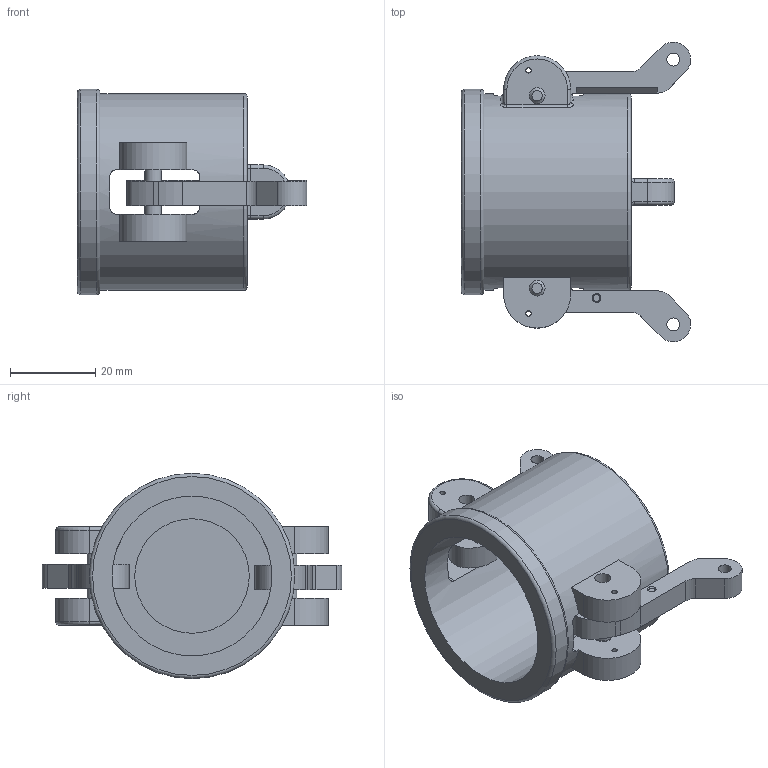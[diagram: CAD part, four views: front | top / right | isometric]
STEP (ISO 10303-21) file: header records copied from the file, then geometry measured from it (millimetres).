
FILE_DESCRIPTION(/* description */ ('Alibre Inc.'),/* implementation_level */ '2;1');
FILE_NAME(/* name */ 'export0',/* time_stamp */ '2016-01-24T16:46:46-05:00',/* author */ (''),/* organization */ (''),/* preprocessor_version */ 'ST-DEVELOPER v14',/* originating_system */ 'Alibre',/* authorisation */ '');
FILE_SCHEMA (('CONFIG_CONTROL_DESIGN'));
Length unit declared in the file: centimetre
Products named in the file (5): ID_1; ID_2; ID_3; ID_4
Bounding box: 53.83 x 70.35 x 48.26 mm (x, y, z)
Volume: 36244.2 mm3; surface area: 21653.3 mm2
Topology: 6 solids, 6 shells, 146 faces, 355 edges, 229 vertices
Faces by surface type: plane 63, cylinder 58, torus 15, bspline 6, cone 4
Full cylindrical faces by diameter (mm): 1.27 x4, 3.048 x2, 3.712 x4, 3.962 x2, 4.216 x2, 4.242 x2, 4.775 x1, 26.924 x1, 37.592 x1, 39.624 x1, 40.64 x1, 46.228 x1, 48.26 x1
Entity records: 4587 total; most frequent: CARTESIAN_POINT 1442, ORIENTED_EDGE 524, DIRECTION 487, EDGE_CURVE 262, AXIS2_PLACEMENT_3D 221, VERTEX_POINT 182, EDGE_LOOP 176, FACE_BOUND 176
